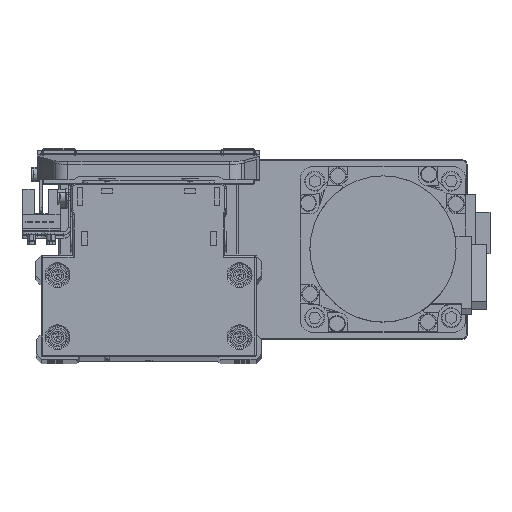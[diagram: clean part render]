
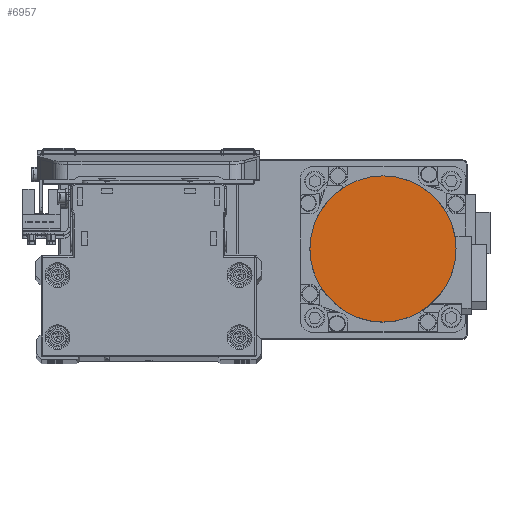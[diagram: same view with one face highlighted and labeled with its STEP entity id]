
A CAD part, top view. The second image highlights one B-rep face of the part: STEP entity #6957.
In plain terms, the highlighted planar face has unit normal (0, 0, 1) as drawn and (0, 0, -1) by its records, which use the part's own axes.
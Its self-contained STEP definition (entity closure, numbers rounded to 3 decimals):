
#5324 = CARTESIAN_POINT ( 'NONE',  ( -26.5, 0., -109.7 ) ) ;
#6343 = VERTEX_POINT ( 'NONE', #22705 ) ;
#6957 = ADVANCED_FACE ( 'NONE', ( #10904 ), #23687, .F. ) ;
#7782 = DIRECTION ( 'NONE',  ( 0., 0., 1. ) ) ;
#9848 = CIRCLE ( 'NONE', #33218, 26.5 ) ;
#9901 = DIRECTION ( 'NONE',  ( 0., 0., 1. ) ) ;
#10904 = FACE_OUTER_BOUND ( 'NONE', #25614, .T. ) ;
#12340 = EDGE_CURVE ( 'NONE', #31978, #6343, #9848, .T. ) ;
#13843 = AXIS2_PLACEMENT_3D ( 'NONE', #36410, #7782, #20557 ) ;
#14691 = CARTESIAN_POINT ( 'NONE',  ( 0., 0., -109.7 ) ) ;
#15595 = EDGE_CURVE ( 'NONE', #6343, #31978, #35395, .T. ) ;
#15731 = ORIENTED_EDGE ( 'NONE', *, *, #15595, .F. ) ;
#17393 = AXIS2_PLACEMENT_3D ( 'NONE', #38538, #9901, #22673 ) ;
#20557 = DIRECTION ( 'NONE',  ( 1., 0., 0. ) ) ;
#22673 = DIRECTION ( 'NONE',  ( 1., 0., 0. ) ) ;
#22705 = CARTESIAN_POINT ( 'NONE',  ( 26.5, 0., -109.7 ) ) ;
#23687 = PLANE ( 'NONE',  #13843 ) ;
#25614 = EDGE_LOOP ( 'NONE', ( #27402, #15731 ) ) ;
#27402 = ORIENTED_EDGE ( 'NONE', *, *, #12340, .F. ) ;
#27456 = DIRECTION ( 'NONE',  ( 0., 0., 1. ) ) ;
#31978 = VERTEX_POINT ( 'NONE', #5324 ) ;
#33218 = AXIS2_PLACEMENT_3D ( 'NONE', #14691, #27456, #40186 ) ;
#35395 = CIRCLE ( 'NONE', #17393, 26.5 ) ;
#36410 = CARTESIAN_POINT ( 'NONE',  ( 0., 0., -109.7 ) ) ;
#38538 = CARTESIAN_POINT ( 'NONE',  ( 0., 0., -109.7 ) ) ;
#40186 = DIRECTION ( 'NONE',  ( -1., 0., 0. ) ) ;
